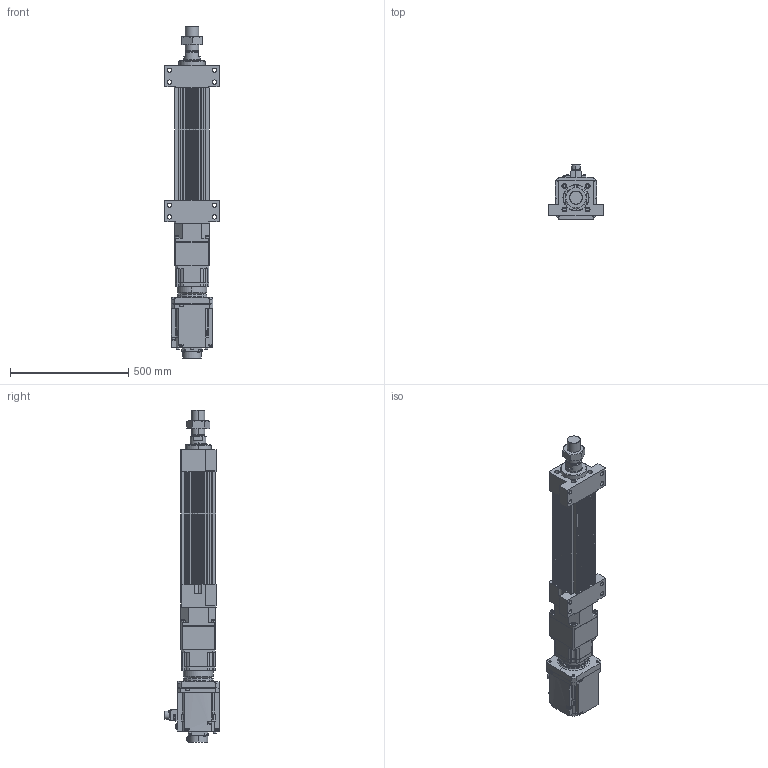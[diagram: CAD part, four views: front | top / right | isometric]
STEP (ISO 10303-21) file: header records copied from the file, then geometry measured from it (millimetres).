
FILE_DESCRIPTION (( 'STEP AP203' ), '1' );
FILE_NAME ('HES150NS(HS)-S200-W050G00-M-FFB.STEP', '2026-06-10T06:39:59', ( 'tms' ), ( '' ), 'SwSTEP 2.0', 'SolidWorks 2013', '' );
FILE_SCHEMA (( 'CONFIG_CONTROL_DESIGN' ));
Length unit declared in the file: millimetre
Products named in the file (9): AB1421; HES150-FFB-200; AB1423; HES150-S-G142; HES150NS(HS)-S200-W050G00-M-FFB; HG-SR502B; M56X2.0P; AB1422; HES150-M-ROD-200
Assembly tree (8 placements, depth 2):
  HES150NS(HS)-S200-W050G00-M-FFB
    HES150-FFB-200
    HES150-M-ROD-200
    M56X2.0P
    HES150-S-G142
    AB1421
    AB1422
    AB1423
    HG-SR502B
Bounding box: 230 x 228.85 x 1403 mm (x, y, z)
Volume: 16834341.2 mm3; surface area: 1683707.2 mm2
Topology: 5 solids, 19 shells, 1554 faces, 4050 edges, 2642 vertices
Faces by surface type: cylinder 710, plane 622, cone 140, bspline 76, torus 6
Entity records: 56814 total; most frequent: CARTESIAN_POINT 17056, DIRECTION 8322, ORIENTED_EDGE 8026, EDGE_CURVE 4035, AXIS2_PLACEMENT_3D 3133, VERTEX_POINT 2642, LINE 2056, VECTOR 2056
